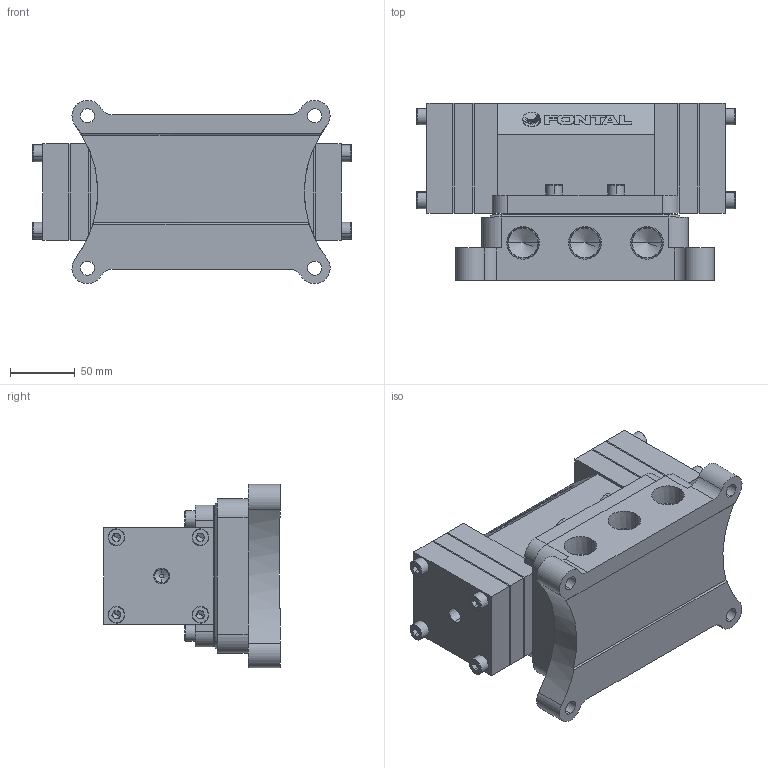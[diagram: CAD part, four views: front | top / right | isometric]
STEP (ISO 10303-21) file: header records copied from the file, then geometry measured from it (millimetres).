
FILE_DESCRIPTION (( 'STEP AP203' ), '1' );
FILE_NAME ('VMD3425-06.STEP', '2016-01-13T18:36:09', ( '' ), ( '' ), 'SwSTEP 2.0', 'SolidWorks 2014', '' );
FILE_SCHEMA (( 'CONFIG_CONTROL_DESIGN' ));
Length unit declared in the file: millimetre
Products named in the file (9): VMD3425-06; PM25底座-1; VMS2425-1; PMS2425-4; VMS2425-2; PM25-MARK-24; PMS2425-1; PMS2425-2; ISO 4762 M8
Assembly tree (24 placements, depth 2):
  VMD3425-06
    PMS2425-1
    PMS2425-2  x4
    ISO 4762 M8  x12
    PMS2425-4
    PM25-MARK-24
    VMS2425-1  x2
    PM25底座-1
    VMS2425-2  x2
Bounding box: 247 x 137 x 142 mm (x, y, z)
Volume: 2418323.1 mm3; surface area: 332572.9 mm2
Topology: 30 solids, 30 shells, 624 faces, 1444 edges, 883 vertices
Faces by surface type: plane 351, cylinder 141, cone 76, torus 48, bspline 8
Entity records: 9921 total; most frequent: CARTESIAN_POINT 1619, DIRECTION 1478, ORIENTED_EDGE 1388, EDGE_CURVE 694, AXIS2_PLACEMENT_3D 511, VECTOR 456, LINE 456, VERTEX_POINT 454
